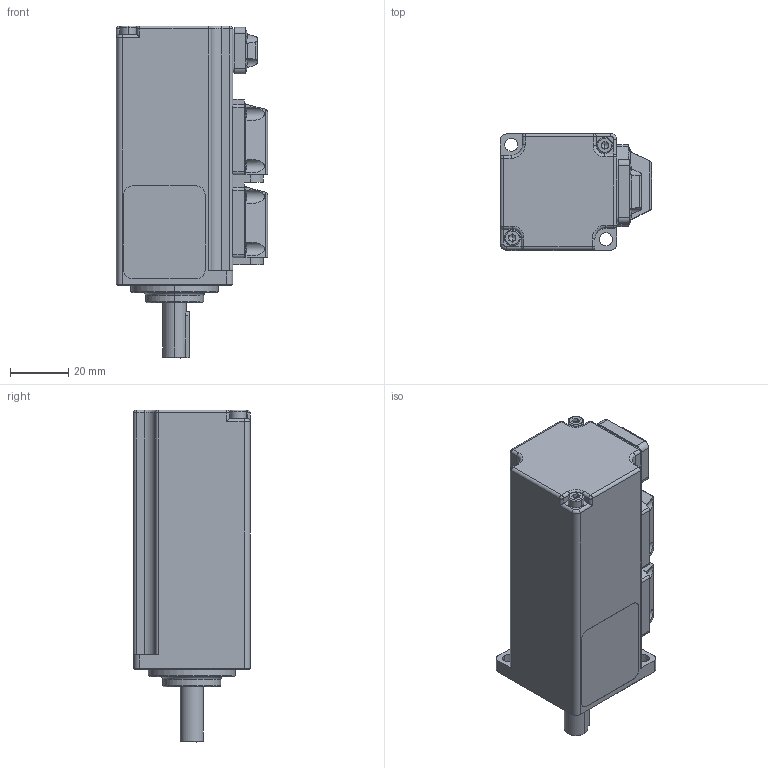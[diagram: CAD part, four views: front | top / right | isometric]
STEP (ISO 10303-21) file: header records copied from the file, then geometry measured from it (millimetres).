
FILE_DESCRIPTION((''),'2;1');
FILE_NAME('R-A5E1K3A0_ASM_ASM','2021-10-18T',('weizy7'),(''),'CREO PARAMETRIC BY PTC INC, 2016260','CREO PARAMETRIC BY PTC INC, 2016260','');
FILE_SCHEMA(('CONFIG_CONTROL_DESIGN'));
Length unit declared in the file: millimetre
Products named in the file (1): R-A5E1K3A0_ASM_ASM
Bounding box: 52.01 x 40.12 x 114.2 mm (x, y, z)
Volume: 143523.6 mm3; surface area: 29471.2 mm2
Topology: 1 solids, 41 shells, 969 faces, 2480 edges, 1577 vertices
Faces by surface type: plane 443, cylinder 381, cone 57, sphere 32, torus 30, bspline 26
Entity records: 30930 total; most frequent: CARTESIAN_POINT 7656, DIRECTION 4872, ORIENTED_EDGE 4860, EDGE_CURVE 2430, AXIS2_PLACEMENT_3D 1889, VERTEX_POINT 1577, VECTOR 1094, LINE 1094
